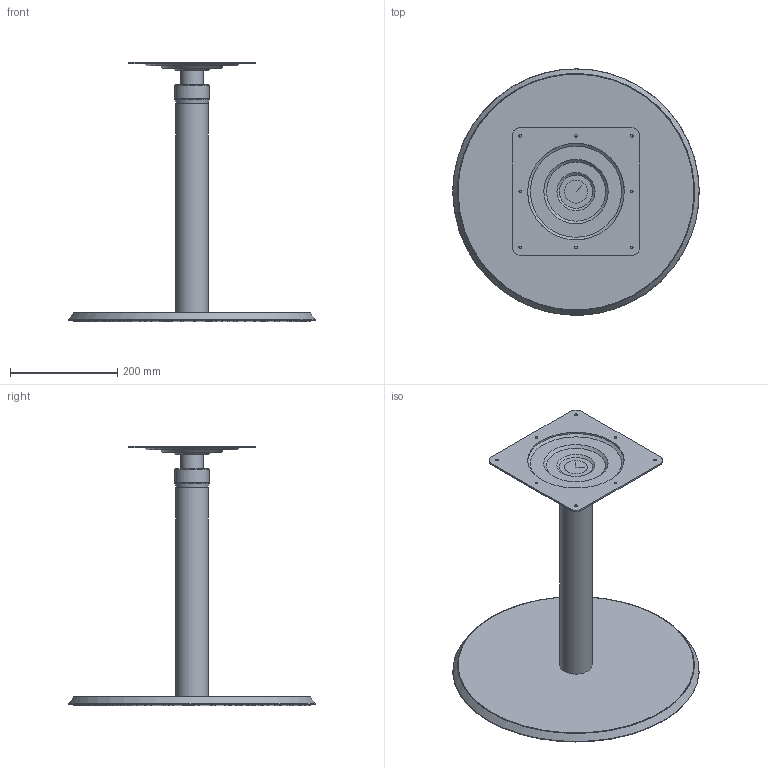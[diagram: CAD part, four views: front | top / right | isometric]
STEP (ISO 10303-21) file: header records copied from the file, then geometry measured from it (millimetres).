
FILE_DESCRIPTION(/* description */ (''),/* implementation_level */ '2;1');
FILE_NAME(/* name */ 'KINOSH~2',/* time_stamp */ '2021-08-03T18:27:41+09:00',/* author */ (''),/* organization */ (''),/* preprocessor_version */ 'ST-DEVELOPER v16.5',/* originating_system */ '',/* authorisation */ '');
FILE_SCHEMA (('AUTOMOTIVE_DESIGN'));
Length unit declared in the file: millimetre
Products named in the file (1): Document
Bounding box: 459.94 x 459.73 x 485 mm (x, y, z)
Volume: 3829605.5 mm3; surface area: 727408.4 mm2
Topology: 5 solids, 7 shells, 65 faces, 134 edges, 78 vertices
Faces by surface type: bspline 55, plane 10
Entity records: 2654 total; most frequent: CARTESIAN_POINT 1794, ORIENTED_EDGE 258, EDGE_CURVE 130, EDGE_LOOP 83, VERTEX_POINT 78, ADVANCED_FACE 65, FACE_OUTER_BOUND 65, B_SPLINE_CURVE_WITH_KNOTS 28
